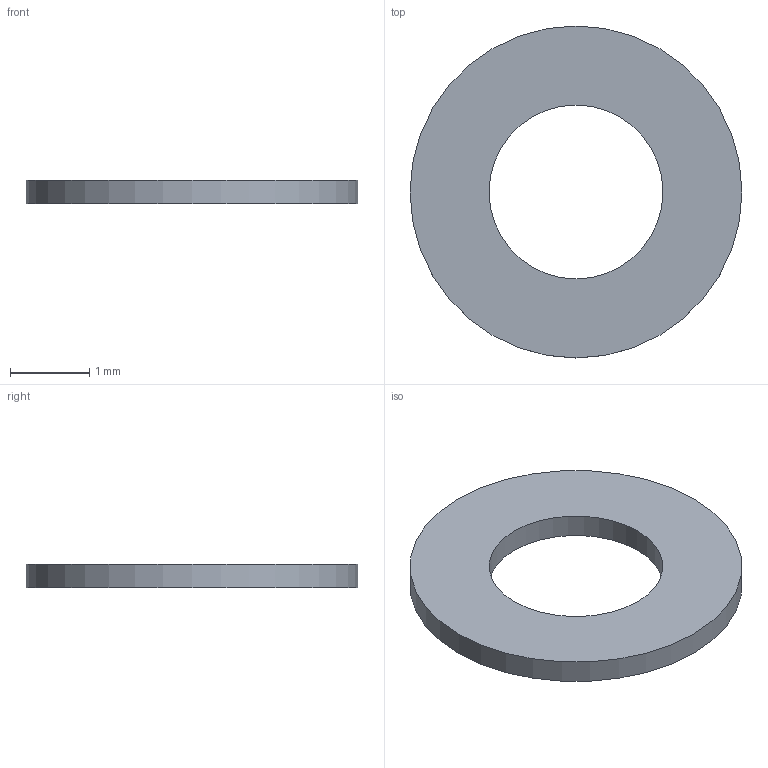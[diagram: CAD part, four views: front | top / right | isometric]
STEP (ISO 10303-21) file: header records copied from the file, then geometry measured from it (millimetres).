
FILE_DESCRIPTION(('Open CASCADE Model'),'2;1');
FILE_NAME('Open CASCADE Shape Model','2026-10-17T01:37:18',('Author'),( 'Open CASCADE'),'Open CASCADE STEP processor 7.9','Open CASCADE 7.9' ,'Unknown');
FILE_SCHEMA(('AUTOMOTIVE_DESIGN { 1 0 10303 214 1 1 1 1 }'));
Length unit declared in the file: millimetre
Products named in the file (1): Open CASCADE STEP translator 7.9 11
Bounding box: 4.2 x 4.2 x 0.3 mm (x, y, z)
Volume: 3 mm3; surface area: 26.1 mm2
Topology: 1 solids, 1 shells, 4 faces, 6 edges, 4 vertices
Faces by surface type: cylinder 2, plane 2
Full cylindrical faces by diameter (mm): 2.2 x1, 4.2 x1
Entity records: 186 total; most frequent: DIRECTION 32, CARTESIAN_POINT 27, ORIENTED_EDGE 12, PCURVE 12, DEFINITIONAL_REPRESENTATION 12, LINE 10, VECTOR 10, AXIS2_PLACEMENT_3D 9
